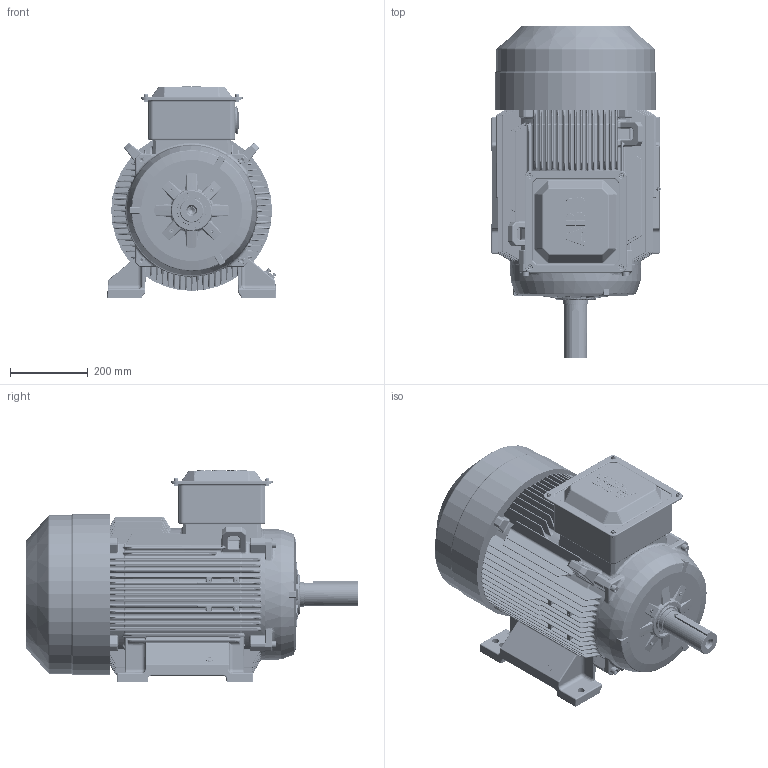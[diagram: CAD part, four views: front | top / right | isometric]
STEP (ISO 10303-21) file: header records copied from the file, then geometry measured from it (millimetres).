
FILE_DESCRIPTION(/* description */ (''),/* implementation_level */ '2;1');
FILE_NAME(/* name */ '3GZC500022-6_E_2-DIMENSION PRINT_stp.stp',/* time_stamp */ '2019-03-12T13:28:15+08:00',/* author */ (''),/* organization */ (''),/* preprocessor_version */ 'ST-DEVELOPER v16.7',/* originating_system */ 'SIEMENS PLM Software NX 12.0',/* authorisation */ '');
FILE_SCHEMA (('AUTOMOTIVE_DESIGN { 1 0 10303 214 3 1 1 1 }'));
Products named in the file (1): CNTO265CF15C8la3
Bounding box: 436.62 x 854.23 x 545.2 mm (x, y, z)
Volume: 82510231.1 mm3; surface area: 2806785.8 mm2
Topology: 1 solids, 25 shells, 5539 faces, 12926 edges, 7322 vertices
Faces by surface type: cylinder 1892, bspline 1662, plane 961, torus 432, sphere 399, cone 171, extrusion 22
Full cylindrical faces by diameter (mm): 2.5 x12, 5 x4, 6 x7, 7 x14, 10 x11, 10.3 x8, 11 x4, 12 x4, 12.5 x4, 13.5 x4, 14 x4, 17.5 x1, 18 x4, 18.5 x6, 20 x5, 21 x1, 57 x2, 58 x1, 59.4 x1, 60 x1, 64.999 x1, 70 x2, 75 x2, 90 x1, 337 x1, 408 x1, 414 x1
Entity records: 182078 total; most frequent: CARTESIAN_POINT 66973, ORIENTED_EDGE 24702, DIRECTION 23027, EDGE_CURVE 12351, AXIS2_PLACEMENT_3D 9538, VERTEX_POINT 7198, EDGE_LOOP 5870, ADVANCED_FACE 5539
